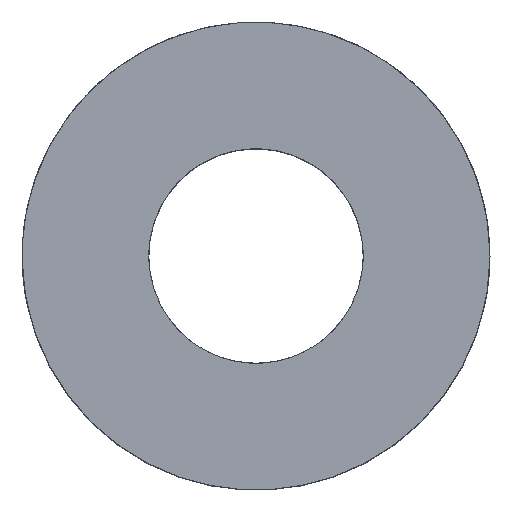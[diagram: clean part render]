
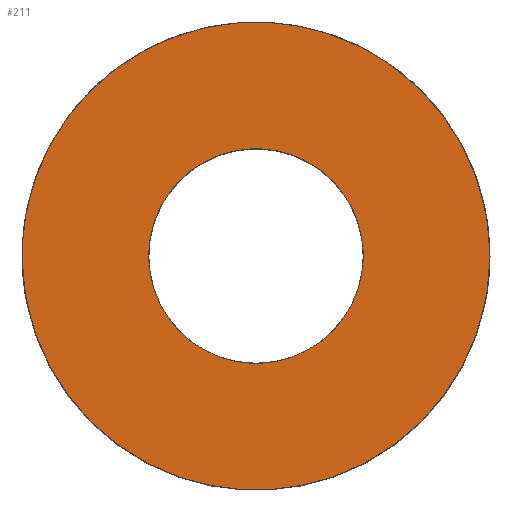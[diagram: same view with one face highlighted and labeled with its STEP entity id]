
A CAD part, top view. The second image highlights one B-rep face of the part: STEP entity #211.
In plain terms, the highlighted planar face has unit normal (0, 0, -1).
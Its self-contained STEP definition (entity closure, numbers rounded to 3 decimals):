
#211=ADVANCED_FACE('',(#227,#218),#522,.T.);
#218=FACE_BOUND('',#243,.T.);
#227=FACE_OUTER_BOUND('',#242,.T.);
#242=EDGE_LOOP('',(#273));
#243=EDGE_LOOP('',(#274));
#273=ORIENTED_EDGE('',*,*,#433,.T.);
#274=ORIENTED_EDGE('',*,*,#434,.T.);
#313=PCURVE('',#522,#353);
#314=PCURVE('',#522,#354);
#353=DEFINITIONAL_REPRESENTATION('',(#470),#1062);
#354=DEFINITIONAL_REPRESENTATION('',(#472),#1062);
#393=SURFACE_CURVE('',#469,(#313),.PCURVE_S1.);
#394=SURFACE_CURVE('',#471,(#314),.PCURVE_S1.);
#433=EDGE_CURVE('',#505,#505,#393,.T.);
#434=EDGE_CURVE('',#506,#506,#394,.T.);
#469=(
BOUNDED_CURVE()
B_SPLINE_CURVE(2,(#894,#895,#896,#897,#898,#899,#900,#901,#902),
 .UNSPECIFIED.,.T.,.F.)
B_SPLINE_CURVE_WITH_KNOTS((3,2,2,2,3),(3.142,4.712,
6.283,7.854,9.425),.UNSPECIFIED.)
CURVE()
GEOMETRIC_REPRESENTATION_ITEM()
RATIONAL_B_SPLINE_CURVE((1.,0.707,1.,0.707,1.,0.707,
1.,0.707,1.))
REPRESENTATION_ITEM('')
);
#470=(
BOUNDED_CURVE()
B_SPLINE_CURVE(2,(#903,#904,#905,#906,#907,#908,#909,#910,#911),
 .UNSPECIFIED.,.T.,.F.)
B_SPLINE_CURVE_WITH_KNOTS((3,2,2,2,3),(3.142,4.712,
6.283,7.854,9.425),.UNSPECIFIED.)
CURVE()
GEOMETRIC_REPRESENTATION_ITEM()
RATIONAL_B_SPLINE_CURVE((1.,0.707,1.,0.707,1.,0.707,
1.,0.707,1.))
REPRESENTATION_ITEM('')
);
#471=(
BOUNDED_CURVE()
B_SPLINE_CURVE(2,(#912,#913,#914,#915,#916,#917,#918,#919,#920),
 .UNSPECIFIED.,.T.,.F.)
B_SPLINE_CURVE_WITH_KNOTS((3,2,2,2,3),(0.,1.571,3.142,
4.712,6.283),.UNSPECIFIED.)
CURVE()
GEOMETRIC_REPRESENTATION_ITEM()
RATIONAL_B_SPLINE_CURVE((1.,0.707,1.,0.707,1.,0.707,
1.,0.707,1.))
REPRESENTATION_ITEM('')
);
#472=(
BOUNDED_CURVE()
B_SPLINE_CURVE(2,(#921,#922,#923,#924,#925,#926,#927,#928,#929),
 .UNSPECIFIED.,.T.,.F.)
B_SPLINE_CURVE_WITH_KNOTS((3,2,2,2,3),(0.,1.571,3.142,
4.712,6.283),.UNSPECIFIED.)
CURVE()
GEOMETRIC_REPRESENTATION_ITEM()
RATIONAL_B_SPLINE_CURVE((1.,0.707,1.,0.707,1.,0.707,
1.,0.707,1.))
REPRESENTATION_ITEM('')
);
#505=VERTEX_POINT('',#892);
#506=VERTEX_POINT('',#893);
#522=PLANE('',#546);
#546=AXIS2_PLACEMENT_3D('',#891,#552,$);
#552=DIRECTION('',(0.,0.,-1.));
#891=CARTESIAN_POINT('',(-722.6,51.,28.));
#892=CARTESIAN_POINT('',(-710.6,45.,28.));
#893=CARTESIAN_POINT('',(-719.35,45.,28.));
#894=CARTESIAN_POINT('',(-710.6,45.,28.));
#895=CARTESIAN_POINT('',(-710.6,39.,28.));
#896=CARTESIAN_POINT('',(-716.6,39.,28.));
#897=CARTESIAN_POINT('',(-722.6,39.,28.));
#898=CARTESIAN_POINT('',(-722.6,45.,28.));
#899=CARTESIAN_POINT('',(-722.6,51.,28.));
#900=CARTESIAN_POINT('',(-716.6,51.,28.));
#901=CARTESIAN_POINT('',(-710.6,51.,28.));
#902=CARTESIAN_POINT('',(-710.6,45.,28.));
#903=CARTESIAN_POINT('',(1.,0.5));
#904=CARTESIAN_POINT('',(1.,1.));
#905=CARTESIAN_POINT('',(0.5,1.));
#906=CARTESIAN_POINT('',(0.,1.));
#907=CARTESIAN_POINT('',(0.,0.5));
#908=CARTESIAN_POINT('',(0.,0.));
#909=CARTESIAN_POINT('',(0.5,0.));
#910=CARTESIAN_POINT('',(1.,0.));
#911=CARTESIAN_POINT('',(1.,0.5));
#912=CARTESIAN_POINT('',(-719.35,45.,28.));
#913=CARTESIAN_POINT('',(-719.35,42.25,28.));
#914=CARTESIAN_POINT('',(-716.6,42.25,28.));
#915=CARTESIAN_POINT('',(-713.85,42.25,28.));
#916=CARTESIAN_POINT('',(-713.85,45.,28.));
#917=CARTESIAN_POINT('',(-713.85,47.75,28.));
#918=CARTESIAN_POINT('',(-716.6,47.75,28.));
#919=CARTESIAN_POINT('',(-719.35,47.75,28.));
#920=CARTESIAN_POINT('',(-719.35,45.,28.));
#921=CARTESIAN_POINT('',(0.271,0.5));
#922=CARTESIAN_POINT('',(0.271,0.729));
#923=CARTESIAN_POINT('',(0.5,0.729));
#924=CARTESIAN_POINT('',(0.729,0.729));
#925=CARTESIAN_POINT('',(0.729,0.5));
#926=CARTESIAN_POINT('',(0.729,0.271));
#927=CARTESIAN_POINT('',(0.5,0.271));
#928=CARTESIAN_POINT('',(0.271,0.271));
#929=CARTESIAN_POINT('',(0.271,0.5));
#1062=(
GEOMETRIC_REPRESENTATION_CONTEXT(2)
PARAMETRIC_REPRESENTATION_CONTEXT()
REPRESENTATION_CONTEXT('pspace','')
);
